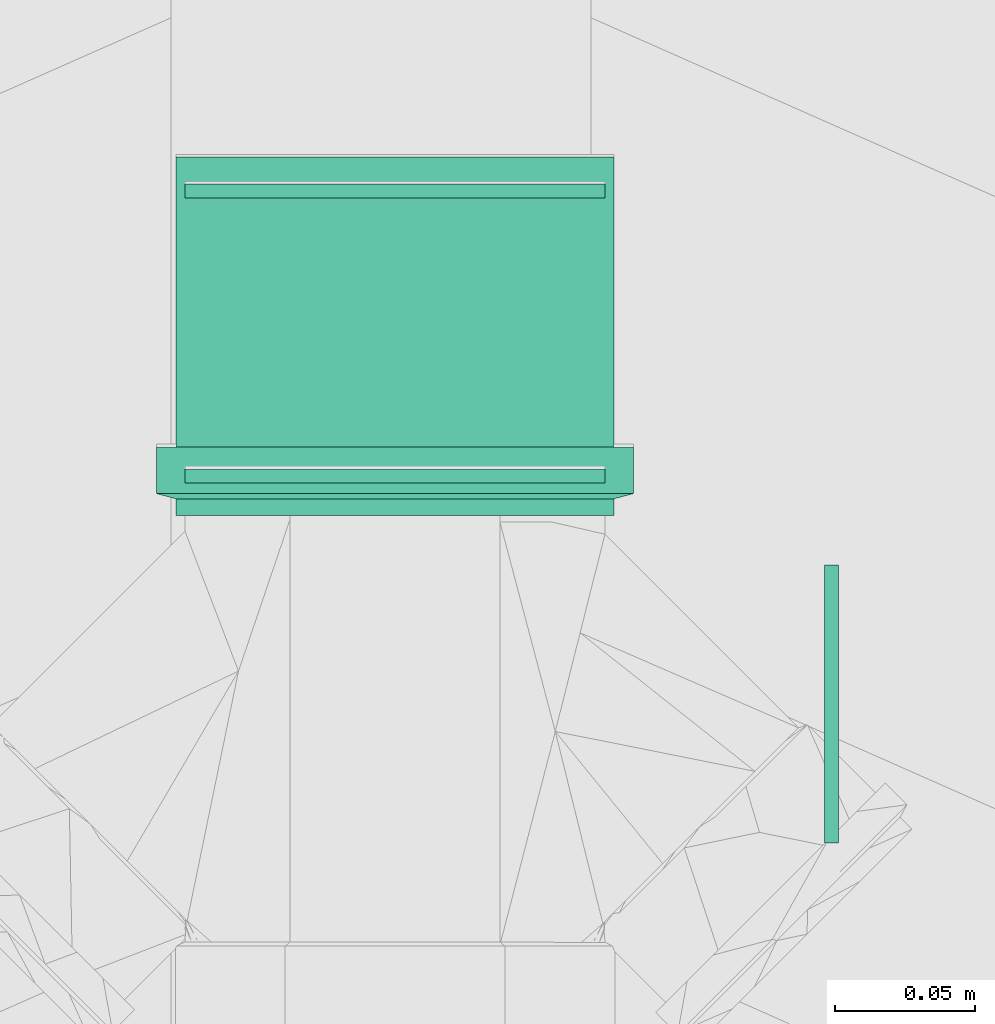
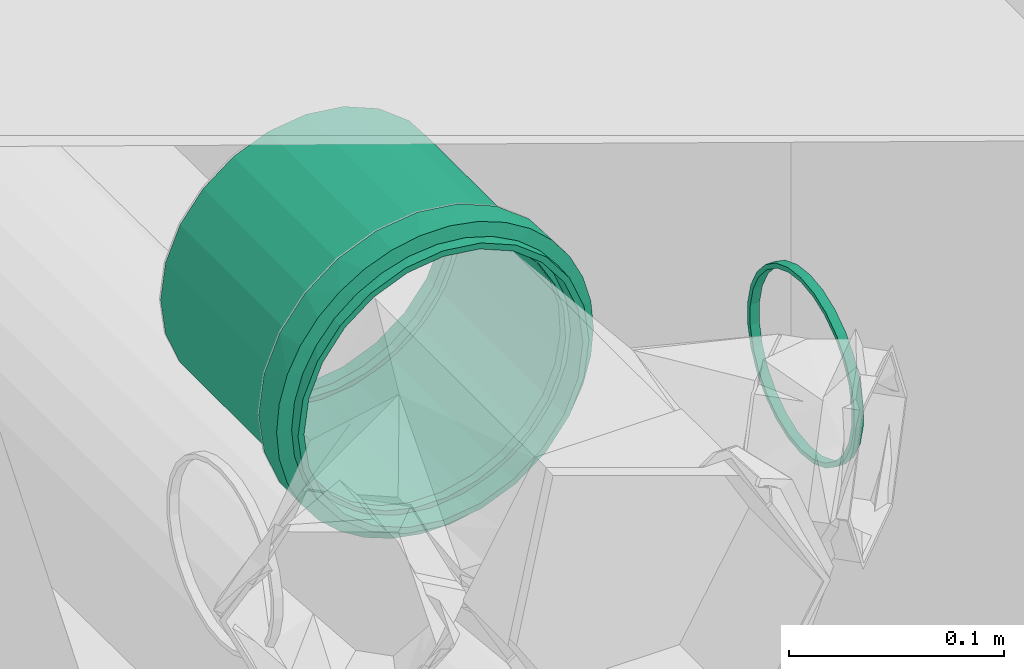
# One storey, part 88 of 166: 4 flow fittings.
"""IFC2X3 building model written with IfcOpenShell, lengths in metres."""

from ifc_helpers import new_model, entity, si_unit, converted_unit, direction, frame, frame_2d, origin, place, context, subcontext, project, spatial, hollow_circle, extrude, faceted_brep, source, transform, mapped, material, type_object, type_shapes, element, save


model = new_model("IFC2X3")

# Units and contexts
model_context = context("Model", 3, precision=1e-05, world=origin(), true_north=direction((6.123233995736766e-17, 1.0)))
body_context = subcontext(model_context, "Body", "Model", "MODEL_VIEW")
ifc_project = project(units=[si_unit("LENGTHUNIT", "METRE"), converted_unit("PLANEANGLEUNIT", "DEGREE", entity("IfcPlaneAngleMeasure", 0.017453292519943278), si_unit("PLANEANGLEUNIT", "RADIAN"), dimensions=[0, 0, 0, 0, 0, 0, 0]), si_unit("AREAUNIT", "SQUARE_METRE")], contexts=[model_context])

# Site, building, storey
site_placement = place(None, origin())
site = spatial("IfcSite", under=ifc_project, at=site_placement, Name="Default", CompositionType="ELEMENT")
building_placement = place(site_placement, origin())
building = spatial("IfcBuilding", under=site, at=building_placement, Name="CASA DE ACOLHIDA PARA IDOSOS", CompositionType="ELEMENT")
storey_placement = place(building_placement, frame((0.0, 0.0, -1.7499999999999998)))
storey = spatial("IfcBuildingStorey", under=building, at=storey_placement, Name="IMPLANTAÇÃO DRENAGEM", CompositionType="ELEMENT", Elevation=-1.7499999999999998)

# Flow fittings
ifc_material_1 = material(Name="PVC Bege Pérola")
pipe_fitting_type_1 = type_object("IfcPipeFittingType", Name="PLUV_Serie Reforcada_Luva Simples:Standard", PredefinedType="NOTDEFINED", material=ifc_material_1)
shared_shape_1 = source(origin(), body_context, "Body", "Brep", [
    faceted_brep([(0.02451000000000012, 0.04262500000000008, -0.07382866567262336), (0.02451000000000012, 0.06028085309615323, -0.06028085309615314), (0.02451000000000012, 0.039124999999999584, -0.06776648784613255), (0.02451000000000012, 0.020252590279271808, -0.0755836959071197), (0.02451000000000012, 0.022064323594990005, -0.08234517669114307), (0.02451000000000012, 0.05533110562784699, -0.055331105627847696), (0.02451000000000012, 0.07382866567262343, -0.04262499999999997), (0.02451000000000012, 0.06776648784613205, -0.03912500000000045), (0.02451000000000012, 0.07558369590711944, -0.02025259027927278), (0.02451000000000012, 0.08234517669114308, -0.022064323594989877), (0.02451000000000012, 0.07825, 0.0), (0.02451000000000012, 0.08525, 0.0), (0.02451000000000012, 0.07558369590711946, 0.020252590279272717), (0.02451000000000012, 0.0823451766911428, 0.022064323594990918), (0.02451000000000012, 0.06776648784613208, 0.039125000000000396), (0.02451000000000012, 0.07382866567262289, 0.04262500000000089), (0.02451000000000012, 0.05533110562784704, 0.055331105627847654), (0.02451000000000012, 0.06028085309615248, 0.0602808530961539), (0.02451000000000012, 0.03912499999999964, 0.06776648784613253), (0.02451000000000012, 0.04262499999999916, 0.07382866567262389), (0.02451000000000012, 0.020252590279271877, 0.07558369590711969), (0.02451000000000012, 0.02206432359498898, 0.08234517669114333), (0.02451000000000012, 0.0, 0.07825), (0.02451000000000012, 0.0, 0.08525), (0.02451000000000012, -0.020252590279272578, 0.0755836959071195), (0.02451000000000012, -0.022064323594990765, 0.08234517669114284), (0.02451000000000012, -0.03912500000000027, 0.06776648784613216), (0.02451000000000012, -0.042625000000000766, 0.07382866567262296), (0.02451000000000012, -0.05533110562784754, 0.055331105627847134), (0.02451000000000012, -0.0602808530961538, 0.06028085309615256), (0.02451000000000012, -0.06776648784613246, 0.03912499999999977), (0.02451000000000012, -0.07382866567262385, 0.042624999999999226), (0.02451000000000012, -0.08234517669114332, 0.02206432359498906), (0.02451000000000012, -0.07558369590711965, 0.020252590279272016), (0.02451000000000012, -0.08525, 0.0), (0.02451000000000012, -0.07825, 0.0), (0.02451000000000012, -0.08234517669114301, -0.022064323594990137), (0.02451000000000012, -0.07558369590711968, -0.020252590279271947), (0.02451000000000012, -0.07382866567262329, -0.04262500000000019), (0.02451000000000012, -0.0677664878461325, -0.03912499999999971), (0.02451000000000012, -0.060280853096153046, -0.060280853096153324), (0.02451000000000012, -0.05533110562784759, -0.055331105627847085), (0.02451000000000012, -0.042624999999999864, -0.0738286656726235), (0.02451000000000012, -0.039125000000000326, -0.06776648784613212), (0.02451000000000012, -0.02206432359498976, -0.08234517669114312), (0.02451000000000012, -0.02025259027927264, -0.07558369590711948), (0.02451000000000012, 0.0, -0.08525), (0.02451000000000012, 0.0, -0.07825), (0.007830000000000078, -0.08379835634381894, 0.01566518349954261), (0.007830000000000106, -0.07949286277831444, 0.03079687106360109), (0.007830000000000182, -0.05137242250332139, 0.06803261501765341), (0.007830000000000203, -0.03799626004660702, 0.07631413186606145), (0.007830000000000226, -0.00786152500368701, 0.08488674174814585), (0.00783000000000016, -0.06299903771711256, 0.057434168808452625), (0.007830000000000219, -0.023326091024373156, 0.08199668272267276), (0.007830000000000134, -0.07248014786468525, 0.044879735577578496), (0.00783000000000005, -0.08525, 0.0), (0.00783000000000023, 0.007870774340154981, 0.08488588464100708), (0.007830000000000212, 0.03800457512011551, 0.07630999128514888), (0.007830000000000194, 0.05137983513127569, 0.06802701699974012), (0.007830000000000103, 0.07949621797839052, 0.030788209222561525), (0.007830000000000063, 0.08380006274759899, 0.015656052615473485), (0.007830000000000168, 0.06300529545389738, 0.05742730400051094), (0.00783000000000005, 0.08525, 0.0), (0.007830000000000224, 0.023335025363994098, 0.08199414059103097), (0.007830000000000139, 0.07248503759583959, 0.04487183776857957), (0.007830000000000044, 0.08380006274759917, -0.015656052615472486), (0.007830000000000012, 0.07949621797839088, -0.03078820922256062), (0.00782999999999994, 0.05137983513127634, -0.06802701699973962), (0.007829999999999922, 0.038004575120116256, -0.07630999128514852), (0.007829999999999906, 0.007870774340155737, -0.084885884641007), (0.00782999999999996, 0.063005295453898, -0.05742730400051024), (0.007829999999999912, 0.023335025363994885, -0.08199414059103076), (0.007829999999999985, 0.07248503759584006, -0.04487183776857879), (0.007829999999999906, -0.007861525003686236, -0.0848867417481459), (0.007829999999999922, -0.037996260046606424, -0.07631413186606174), (0.007829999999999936, -0.05137242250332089, -0.06803261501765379), (0.00783, -0.07949286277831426, -0.030796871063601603), (0.007830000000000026, -0.08379835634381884, -0.015665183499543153), (0.007829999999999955, -0.06299903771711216, -0.057434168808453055), (0.007829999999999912, -0.023326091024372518, -0.08199668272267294), (0.007829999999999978, -0.07248014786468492, -0.044879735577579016), (0.1280100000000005, 0.03912500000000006, -0.06776648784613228), (0.1280100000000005, 0.055331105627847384, -0.05533110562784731), (0.1280100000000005, 0.0374999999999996, -0.06495190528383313), (0.1280100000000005, 0.01941142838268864, -0.07244443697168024), (0.1280100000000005, 0.020252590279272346, -0.07558369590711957), (0.1280100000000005, 0.05303300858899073, -0.053033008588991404), (0.1280100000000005, 0.06776648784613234, -0.039124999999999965), (0.1280100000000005, 0.06495190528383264, -0.03750000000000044), (0.1280100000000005, 0.07244443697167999, -0.01941142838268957), (0.1280100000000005, 0.07558369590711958, -0.020252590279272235), (0.1280100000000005, 0.07500000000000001, 0.0), (0.1280100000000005, 0.07825, 0.0), (0.1280100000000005, 0.07244443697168, 0.019411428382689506), (0.1280100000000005, 0.07558369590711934, 0.020252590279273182), (0.1280100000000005, 0.06495190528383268, 0.03750000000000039), (0.1280100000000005, 0.06776648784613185, 0.03912500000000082), (0.1280100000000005, 0.05303300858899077, 0.05303300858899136), (0.1280100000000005, 0.0553311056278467, 0.055331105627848), (0.1280100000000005, 0.03749999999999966, 0.0649519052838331), (0.1280100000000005, 0.039124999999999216, 0.06776648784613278), (0.1280100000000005, 0.0194114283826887, 0.07244443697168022), (0.1280100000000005, 0.020252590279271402, 0.07558369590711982), (0.1280100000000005, 0.0, 0.07500000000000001), (0.1280100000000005, 0.0, 0.07825), (0.1280100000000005, -0.019411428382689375, 0.07244443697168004), (0.1280100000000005, -0.020252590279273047, 0.07558369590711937), (0.1280100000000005, -0.03750000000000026, 0.06495190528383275), (0.1280100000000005, -0.039125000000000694, 0.06776648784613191), (0.1280100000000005, -0.05303300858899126, 0.05303300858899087), (0.1280100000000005, -0.055331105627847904, 0.05533110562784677), (0.1280100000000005, -0.06495190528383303, 0.037499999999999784), (0.1280100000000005, -0.06776648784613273, 0.039124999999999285), (0.1280100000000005, -0.0755836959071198, 0.02025259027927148), (0.1280100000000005, -0.07244443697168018, 0.019411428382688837), (0.1280100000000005, -0.07825, 0.0), (0.1280100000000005, -0.07500000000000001, 0.0), (0.1280100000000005, -0.07558369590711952, -0.020252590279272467), (0.1280100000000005, -0.0724444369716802, -0.01941142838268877), (0.1280100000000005, -0.06776648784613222, -0.039125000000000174), (0.1280100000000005, -0.06495190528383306, -0.03749999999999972), (0.1280100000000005, -0.05533110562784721, -0.05533110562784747), (0.1280100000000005, -0.053033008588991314, -0.05303300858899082), (0.1280100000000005, -0.03912499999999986, -0.0677664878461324), (0.1280100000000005, -0.03750000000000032, -0.06495190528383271), (0.1280100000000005, -0.02025259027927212, -0.07558369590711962), (0.1280100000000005, -0.019411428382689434, -0.07244443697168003), (0.1280100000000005, 0.0, -0.07825), (0.1280100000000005, 0.0, -0.07500000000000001), (0.0, 0.0374999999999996, -0.06495190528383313), (0.0, 0.055331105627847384, -0.05533110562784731), (0.0, 0.03912500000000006, -0.06776648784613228), (0.0, 0.01941142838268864, -0.07244443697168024), (0.0, 0.05303300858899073, -0.053033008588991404), (0.0, 0.06776648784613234, -0.039124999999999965), (0.0, 0.06495190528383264, -0.03750000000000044), (0.0, 0.07244443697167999, -0.01941142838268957), (0.0, 0.07558369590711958, -0.020252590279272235), (0.0, 0.07500000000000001, 0.0), (0.0, 0.07825, 0.0), (0.0, 0.07244443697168, 0.019411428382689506), (0.0, 0.07558369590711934, 0.020252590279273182), (0.0, 0.06495190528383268, 0.03750000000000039), (0.0, 0.06776648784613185, 0.03912500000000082), (0.0, 0.05303300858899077, 0.05303300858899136), (0.0, 0.0553311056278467, 0.055331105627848), (0.0, 0.03749999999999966, 0.0649519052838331), (0.0, 0.039124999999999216, 0.06776648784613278), (0.0, 0.0194114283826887, 0.07244443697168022), (0.0, 0.020252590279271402, 0.07558369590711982), (0.0, 0.0, 0.07500000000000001), (0.0, 0.0, 0.07825), (0.0, -0.019411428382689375, 0.07244443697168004), (0.0, -0.020252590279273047, 0.07558369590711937), (0.0, -0.03750000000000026, 0.06495190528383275), (0.0, -0.039125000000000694, 0.06776648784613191), (0.0, -0.05303300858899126, 0.05303300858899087), (0.0, -0.055331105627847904, 0.05533110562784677), (0.0, -0.06495190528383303, 0.037499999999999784), (0.0, -0.06776648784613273, 0.039124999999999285), (0.0, -0.0755836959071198, 0.02025259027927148), (0.0, -0.07244443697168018, 0.019411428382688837), (0.0, -0.07825, 0.0), (0.0, -0.07500000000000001, 0.0), (0.0, -0.07558369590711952, -0.020252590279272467), (0.0, -0.0724444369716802, -0.01941142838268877), (0.0, -0.06776648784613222, -0.039125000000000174), (0.0, -0.06495190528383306, -0.03749999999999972), (0.0, -0.05533110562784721, -0.05533110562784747), (0.0, -0.053033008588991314, -0.05303300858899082), (0.0, -0.03912499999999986, -0.0677664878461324), (0.0, -0.03750000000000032, -0.06495190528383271), (0.0, -0.02025259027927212, -0.07558369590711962), (0.0, -0.019411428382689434, -0.07244443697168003), (0.0, 0.0, -0.07825), (0.0, 0.0, -0.07500000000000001), (0.0, 0.020252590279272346, -0.07558369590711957), (0.005950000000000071, -0.07674636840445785, 0.015266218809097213), (0.0059500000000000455, -0.07825, 0.0), (0.005950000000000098, -0.0722932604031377, 0.02994573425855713), (0.005950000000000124, -0.06506181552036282, 0.043474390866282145), (0.005950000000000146, -0.05532994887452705, 0.05533226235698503), (0.005950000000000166, -0.04347167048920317, 0.06506363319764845), (0.005950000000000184, -0.029942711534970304, 0.07229451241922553), (0.005950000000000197, -0.015263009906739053, 0.07674700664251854), (0.005950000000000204, 3.271758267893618e-06, 0.07824999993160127), (0.005950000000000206, 0.015269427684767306, 0.07674573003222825), (0.005950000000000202, 0.029948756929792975, 0.07229200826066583), (0.00595000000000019, 0.04347711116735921, 0.0650599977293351), (0.005950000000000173, 0.055334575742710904, 0.05532763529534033), (0.0059500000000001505, 0.06506545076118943, 0.043468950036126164), (0.005950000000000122, 0.07229576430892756, 0.02993968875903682), (0.005950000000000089, 0.07674764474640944, 0.015259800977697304), (0.0059500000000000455, 0.07825, 0.0), (0.0059499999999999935, 0.07674764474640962, -0.015259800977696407), (0.005949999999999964, 0.0722957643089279, -0.02993968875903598), (0.005949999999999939, 0.06506545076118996, -0.04346895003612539), (0.005949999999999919, 0.05533457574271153, -0.05532763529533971), (0.005949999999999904, 0.04347711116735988, -0.06505999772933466), (0.005949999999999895, 0.029948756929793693, -0.07229200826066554), (0.00594999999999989, 0.015269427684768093, -0.0767457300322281), (0.005949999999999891, 3.2717582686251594e-06, -0.07824999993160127), (0.00594999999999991, -0.029942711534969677, -0.0722945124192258), (0.005949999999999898, -0.015263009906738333, -0.07674700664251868), (0.005949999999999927, -0.04347167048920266, -0.0650636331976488), (0.005949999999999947, -0.055329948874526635, -0.055332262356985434), (0.00594999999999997, -0.06506181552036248, -0.043474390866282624), (0.005949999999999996, -0.0722932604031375, -0.02994573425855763), (0.00595000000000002, -0.07674636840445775, -0.015266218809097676), (0.06700000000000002, -0.07500000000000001, 0.0), (0.067, 0.07500000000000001, 0.0)], [[[0, 1, 2]], [[0, 2, 3]], [[3, 4, 0]], [[2, 1, 5]], [[6, 5, 1]], [[5, 6, 7]], [[7, 6, 8]], [[9, 8, 6]], [[9, 10, 8]], [[10, 9, 11]], [[12, 10, 11]], [[11, 13, 12]], [[12, 13, 14]], [[15, 14, 13]], [[14, 15, 16]], [[16, 15, 17]], [[18, 16, 17]], [[17, 19, 18]], [[18, 19, 20]], [[21, 20, 19]], [[20, 21, 22]], [[22, 21, 23]], [[22, 23, 24]], [[24, 23, 25]], [[24, 25, 26]], [[27, 26, 25]], [[27, 28, 26]], [[28, 27, 29]], [[29, 30, 28]], [[31, 30, 29]], [[30, 31, 32]], [[32, 33, 30]], [[34, 33, 32]], [[34, 35, 33]], [[36, 35, 34]], [[36, 37, 35]], [[37, 36, 38]], [[38, 39, 37]], [[39, 38, 40]], [[39, 40, 41]], [[40, 42, 41]], [[41, 42, 43]], [[43, 42, 44]], [[44, 45, 43]], [[46, 45, 44]], [[4, 47, 46]], [[46, 47, 45]], [[4, 3, 47]], [[32, 48, 34]], [[31, 49, 32]], [[50, 29, 27]], [[27, 25, 51]], [[52, 25, 23]], [[31, 29, 53]], [[52, 54, 25]], [[55, 49, 31]], [[49, 48, 32]], [[48, 56, 34]], [[51, 50, 27]], [[53, 29, 50]], [[53, 55, 31]], [[51, 25, 54]], [[21, 57, 23]], [[58, 21, 19]], [[19, 17, 59]], [[60, 15, 13]], [[13, 11, 61]], [[17, 15, 62]], [[11, 63, 61]], [[59, 58, 19]], [[58, 64, 21]], [[64, 57, 21]], [[60, 65, 15]], [[62, 15, 65]], [[62, 59, 17]], [[60, 13, 61]], [[23, 57, 52]], [[9, 66, 11]], [[6, 67, 9]], [[68, 1, 0]], [[0, 4, 69]], [[70, 4, 46]], [[6, 1, 71]], [[70, 72, 4]], [[73, 67, 6]], [[67, 66, 9]], [[66, 63, 11]], [[69, 68, 0]], [[71, 1, 68]], [[71, 73, 6]], [[69, 4, 72]], [[44, 74, 46]], [[75, 44, 42]], [[42, 40, 76]], [[38, 36, 77]], [[78, 36, 34]], [[34, 56, 78]], [[40, 38, 79]], [[78, 77, 36]], [[76, 75, 42]], [[75, 80, 44]], [[80, 74, 44]], [[79, 38, 81]], [[79, 76, 40]], [[77, 81, 38]], [[46, 74, 70]], [[82, 83, 84]], [[82, 84, 85]], [[85, 86, 82]], [[84, 83, 87]], [[88, 87, 83]], [[87, 88, 89]], [[89, 88, 90]], [[91, 90, 88]], [[91, 92, 90]], [[92, 91, 93]], [[94, 92, 93]], [[93, 95, 94]], [[94, 95, 96]], [[97, 96, 95]], [[96, 97, 98]], [[98, 97, 99]], [[100, 98, 99]], [[99, 101, 100]], [[100, 101, 102]], [[103, 102, 101]], [[102, 103, 104]], [[104, 103, 105]], [[104, 105, 106]], [[106, 105, 107]], [[106, 107, 108]], [[109, 108, 107]], [[110, 108, 109]], [[110, 109, 111]], [[111, 112, 110]], [[113, 112, 111]], [[112, 113, 114]], [[114, 115, 112]], [[116, 115, 114]], [[116, 117, 115]], [[118, 117, 116]], [[118, 119, 117]], [[119, 118, 120]], [[120, 121, 119]], [[121, 120, 122]], [[121, 122, 123]], [[122, 124, 123]], [[125, 123, 124]], [[125, 124, 126]], [[126, 127, 125]], [[128, 127, 126]], [[86, 129, 128]], [[128, 129, 127]], [[86, 85, 129]], [[130, 131, 132]], [[133, 130, 132]], [[134, 131, 130]], [[131, 134, 135]], [[136, 135, 134]], [[137, 135, 136]], [[135, 137, 138]], [[137, 139, 138]], [[140, 138, 139]], [[140, 139, 141]], [[141, 142, 140]], [[143, 142, 141]], [[142, 143, 144]], [[145, 144, 143]], [[146, 144, 145]], [[146, 145, 147]], [[147, 148, 146]], [[149, 148, 147]], [[148, 149, 150]], [[151, 150, 149]], [[152, 150, 151]], [[153, 152, 151]], [[154, 152, 153]], [[155, 154, 153]], [[154, 155, 156]], [[156, 155, 157]], [[158, 156, 157]], [[157, 159, 158]], [[158, 159, 160]], [[161, 160, 159]], [[159, 162, 161]], [[161, 162, 163]], [[162, 164, 163]], [[163, 164, 165]], [[164, 166, 165]], [[167, 165, 166]], [[166, 168, 167]], [[169, 167, 168]], [[170, 169, 168]], [[170, 171, 169]], [[171, 170, 172]], [[173, 171, 172]], [[172, 174, 173]], [[173, 174, 175]], [[174, 176, 175]], [[176, 133, 177]], [[175, 176, 177]], [[132, 177, 133]], [[178, 163, 179]], [[180, 161, 178]], [[158, 181, 182]], [[182, 183, 158]], [[180, 181, 160]], [[184, 156, 183]], [[158, 160, 181]], [[160, 161, 180]], [[161, 163, 178]], [[185, 152, 154]], [[152, 185, 186]], [[156, 184, 154]], [[156, 158, 183]], [[185, 154, 184]], [[150, 152, 187]], [[188, 150, 187]], [[146, 189, 190]], [[190, 191, 146]], [[188, 189, 148]], [[192, 144, 191]], [[144, 146, 191]], [[146, 148, 189]], [[148, 150, 188]], [[193, 194, 140]], [[140, 142, 193]], [[142, 144, 192]], [[192, 193, 142]], [[187, 152, 186]], [[195, 140, 194]], [[196, 138, 195]], [[131, 197, 198]], [[198, 199, 131]], [[196, 197, 135]], [[200, 132, 199]], [[131, 135, 197]], [[135, 138, 196]], [[138, 140, 195]], [[177, 201, 175]], [[132, 200, 177]], [[201, 202, 175]], [[132, 131, 199]], [[201, 177, 200]], [[203, 173, 204]], [[205, 171, 203]], [[169, 206, 207]], [[167, 207, 208]], [[205, 206, 169]], [[165, 208, 209]], [[169, 171, 205]], [[171, 173, 203]], [[173, 175, 204]], [[163, 165, 209]], [[167, 208, 165]], [[167, 169, 207]], [[163, 209, 179]], [[204, 175, 202]], [[81, 208, 207]], [[179, 209, 78]], [[209, 208, 77]], [[205, 203, 75]], [[76, 206, 205]], [[206, 79, 207]], [[204, 80, 203]], [[78, 209, 77]], [[56, 179, 78]], [[77, 208, 81]], [[74, 80, 204]], [[76, 79, 206]], [[75, 76, 205]], [[80, 75, 203]], [[81, 207, 79]], [[204, 202, 74]], [[72, 201, 200]], [[201, 70, 202]], [[199, 69, 200]], [[196, 195, 67]], [[73, 197, 196]], [[198, 197, 71]], [[198, 68, 199]], [[66, 195, 194]], [[68, 69, 199]], [[72, 70, 201]], [[69, 72, 200]], [[63, 66, 194]], [[73, 71, 197]], [[67, 73, 196]], [[66, 67, 195]], [[68, 198, 71]], [[202, 70, 74]], [[65, 192, 191]], [[194, 193, 61]], [[193, 192, 60]], [[189, 188, 58]], [[59, 190, 189]], [[190, 62, 191]], [[187, 64, 188]], [[61, 193, 60]], [[63, 194, 61]], [[60, 192, 65]], [[57, 64, 187]], [[59, 62, 190]], [[58, 59, 189]], [[64, 58, 188]], [[65, 191, 62]], [[187, 186, 57]], [[54, 185, 184]], [[185, 52, 186]], [[183, 51, 184]], [[180, 178, 49]], [[55, 181, 180]], [[182, 181, 53]], [[182, 50, 183]], [[48, 178, 179]], [[50, 51, 183]], [[54, 52, 185]], [[51, 54, 184]], [[56, 48, 179]], [[55, 53, 181]], [[49, 55, 180]], [[48, 49, 178]], [[50, 182, 53]], [[186, 52, 57]], [[33, 35, 116, 114]], [[113, 30, 33, 114]], [[26, 28, 111, 109]], [[113, 111, 28, 30]], [[24, 26, 109, 107]], [[107, 105, 22, 24]], [[18, 20, 103, 101]], [[99, 16, 18, 101]], [[12, 14, 97, 95]], [[99, 97, 14, 16]], [[10, 12, 95, 93]], [[103, 20, 22, 105]], [[10, 93, 91, 8]], [[88, 7, 8, 91]], [[82, 86, 3, 2]], [[83, 82, 2, 5]], [[7, 88, 83, 5]], [[86, 128, 47, 3]], [[43, 45, 126, 124]], [[122, 41, 43, 124]], [[37, 39, 120, 118]], [[122, 120, 39, 41]], [[35, 37, 118, 116]], [[126, 45, 47, 128]], [[115, 117, 210, 164, 162]], [[155, 108, 110, 157]], [[110, 112, 159, 157]], [[112, 115, 162, 159]], [[106, 108, 155, 153]], [[153, 151, 104, 106]], [[102, 104, 151, 149]], [[102, 149, 147, 100]], [[141, 94, 96, 143]], [[96, 98, 145, 143]], [[98, 100, 147, 145]], [[92, 94, 141, 139, 211]], [[211, 139, 137, 90, 92]], [[130, 84, 87, 134]], [[89, 90, 137, 136]], [[89, 136, 134, 87]], [[85, 84, 130, 133]], [[133, 176, 129, 85]], [[127, 129, 176, 174]], [[127, 174, 172, 125]], [[166, 119, 121, 168]], [[121, 123, 170, 168]], [[123, 125, 172, 170]], [[117, 119, 166, 164, 210]]]),
])
type_shapes(pipe_fitting_type_1, [shared_shape_1])
flow_fitting_1_placement = place(storey_placement, frame((-21.976366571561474, 13.917342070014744, -0.7999999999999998), z_axis=(0.0, 0.0, -1.0), x_axis=(0.0, 1.0, 0.0)))
element("IfcFlowFitting", 1, at=flow_fitting_1_placement, inside=storey, type_object=pipe_fitting_type_1, material=ifc_material_1, Name="PLUV_Serie Reforcada_Luva Simples:Standard", ObjectType="PLUV_Serie Reforcada_Luva Simples:Standard", context=body_context, shape_type="MappedRepresentation", body=[
    mapped(shared_shape_1, transform((0.0, 0.0, 0.0), scale=1.0)),
])
ifc_material_2 = material(Name="Borracha")
pipe_fitting_type_2 = type_object("IfcPipeFittingType", Name="AN_PLUV_Anel de vedação para Conexão Série R:AN_PLUV_Anel de vedação para Conexão Série R", PredefinedType="NOTDEFINED", material=ifc_material_2)
shared_shape_2 = source(origin(), body_context, "Body", "SweptSolid", [
    extrude(hollow_circle(Radius=0.05, WallThickness=0.0024999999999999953, at=frame_2d((2.979563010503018e-18, -8.077722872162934e-17), x_axis=(1.0, 0.0))), frame((0.0, 0.0, -0.004999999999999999)), (0.0, 0.0, 1.0), 0.004999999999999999),
])
type_shapes(pipe_fitting_type_2, [shared_shape_2])
flow_fitting_2_placement = place(storey_placement, frame((-21.823020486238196, 13.850025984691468, -0.7999999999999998), z_axis=(-1.0, 0.0, 0.0), x_axis=(0.0, 0.0, 1.0)))
element("IfcFlowFitting", 2, at=flow_fitting_2_placement, inside=storey, type_object=pipe_fitting_type_2, material=ifc_material_2, Name="AN_PLUV_Anel de vedação para Conexão Série R:AN_PLUV_Anel de vedação para Conexão Série R", ObjectType="AN_PLUV_Anel de vedação para Conexão Série R:AN_PLUV_Anel de vedação para Conexão Série R", context=body_context, shape_type="MappedRepresentation", body=[
    mapped(shared_shape_2, transform((0.0, 0.0, 0.0), scale=1.0)),
])
pipe_fitting_type_3 = type_object("IfcPipeFittingType", Name="AN_PLUV_Anel de vedação para Conexão Série R:AN_PLUV_Anel de vedação para Conexão Série R", PredefinedType="NOTDEFINED", material=ifc_material_2)
shared_shape_3 = source(origin(), body_context, "Body", "SweptSolid", [
    extrude(hollow_circle(Radius=0.07500000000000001, WallThickness=0.0025000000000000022, at=frame_2d((2.979563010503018e-18, -1.21165843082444e-16), x_axis=(1.0, 0.0))), frame((0.0, 0.0, -0.004999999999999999)), (0.0, 0.0, 1.0), 0.004999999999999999),
])
type_shapes(pipe_fitting_type_3, [shared_shape_3])
for number, where, z_axis, x_axis in (
    (3, (-21.976366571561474, 14.030692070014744, -0.7999999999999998), (0.0, -1.0, 0.0), (0.0, 0.0, 1.0)),
    (4, (-21.976366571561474, 13.933942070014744, -0.7999999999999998), (0.0, 1.0, 0.0), (0.0, 0.0, 1.0)),
):
    element("IfcFlowFitting", number, at=place(storey_placement, frame(where, z_axis=z_axis, x_axis=x_axis)), inside=storey, type_object=pipe_fitting_type_3, material=ifc_material_2, Name="AN_PLUV_Anel de vedação para Conexão Série R:AN_PLUV_Anel de vedação para Conexão Série R", ObjectType="AN_PLUV_Anel de vedação para Conexão Série R:AN_PLUV_Anel de vedação para Conexão Série R", context=body_context, shape_type="MappedRepresentation", body=[
        mapped(shared_shape_3, transform((0.0, 0.0, 0.0), scale=1.0)),
    ])

save(model, "model.ifc")
